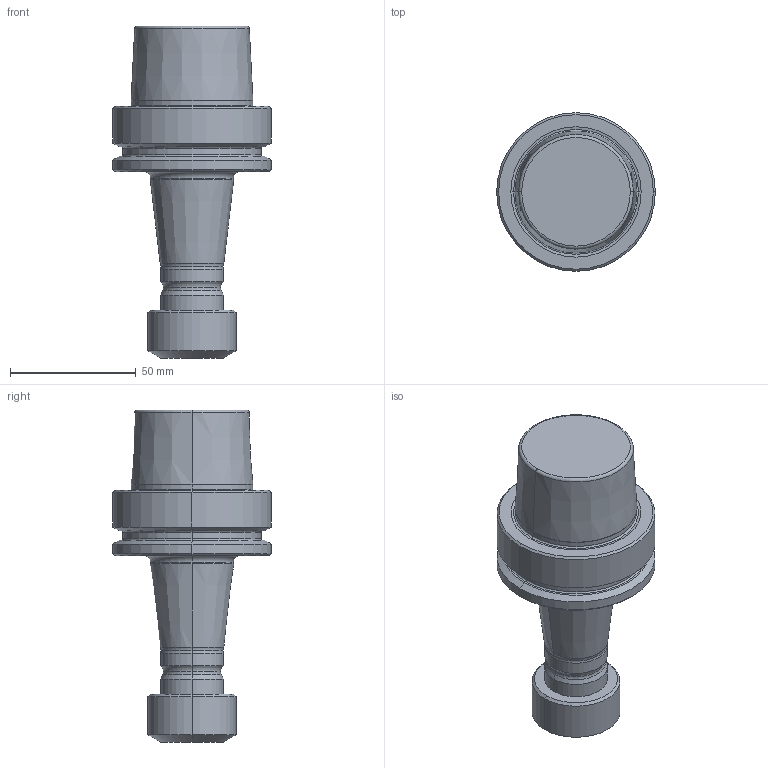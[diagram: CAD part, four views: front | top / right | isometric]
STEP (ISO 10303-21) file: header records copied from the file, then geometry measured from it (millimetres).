
FILE_DESCRIPTION (( 'STEP AP203' ), '1' );
FILE_NAME ('HSK-A 63 ER 20 100 6.3G 20000 SL.STEP', '2019-05-11T03:38:04', ( '' ), ( '' ), 'SwSTEP 2.0', 'SolidWorks 2014', '' );
FILE_SCHEMA (( 'CONFIG_CONTROL_DESIGN' ));
Length unit declared in the file: millimetre
Products named in the file (1): HSK-A 63 ER 20 100 6.3G 20000 SL
Bounding box: 63 x 63 x 131.9 mm (x, y, z)
Volume: 184323.8 mm3; surface area: 23637.6 mm2
Topology: 1 solids, 1 shells, 63 faces, 124 edges, 68 vertices
Faces by surface type: cone 22, torus 20, cylinder 14, plane 7
Entity records: 1691 total; most frequent: DIRECTION 340, CARTESIAN_POINT 256, ORIENTED_EDGE 248, AXIS2_PLACEMENT_3D 152, EDGE_CURVE 124, CIRCLE 88, EDGE_LOOP 68, VERTEX_POINT 68
